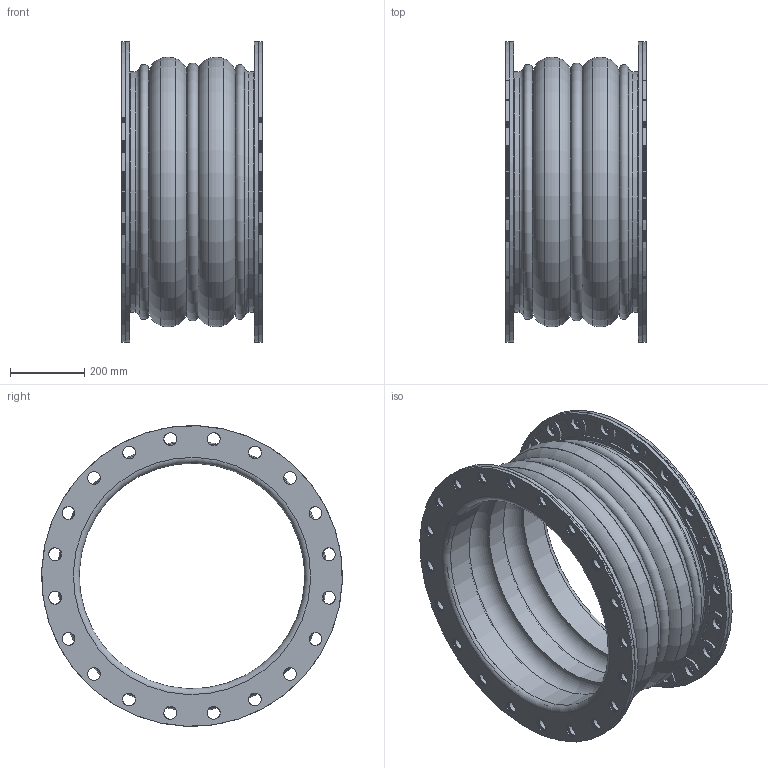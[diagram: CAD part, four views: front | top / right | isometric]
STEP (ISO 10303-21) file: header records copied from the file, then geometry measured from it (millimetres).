
FILE_DESCRIPTION((''),'2;1');
FILE_NAME('C:\2011_Work\Designs\Mercer\Stock Joints\450 Style\452\STEP\Style452 24x15.stp','2013-07-26T17:30:36',('mquog'),(''),'Autodesk Inventor 2011','Autodesk Inventor 2011','');
FILE_SCHEMA(('AUTOMOTIVE_DESIGN { 1 0 10303 214 1 1 1 1 }'));
Length unit declared in the file: inch
Products named in the file (4): Style452 24x15; 24DI450BUR150; 24_MBR; 452 24x15
Assembly tree (4 placements, depth 2):
  Style452 24x15
    24DI450BUR150  x2
    24_MBR
    452 24x15
Bounding box: 381 x 812.72 x 812.72 mm (x, y, z)
Volume: 27904581.3 mm3; surface area: 20312457.1 mm2
Topology: 36 solids, 36 shells, 1033 faces, 2682 edges, 1761 vertices
Faces by surface type: cylinder 738, plane 188, torus 103, cone 4
Full cylindrical faces by diameter (mm): 34.925 x280, 609.6 x3, 615.95 x6, 622.3 x12, 626.161 x6, 630.022 x6, 633.197 x3, 641.35 x6, 806.45 x12, 812.8 x2, 812.843 x2
Entity records: 22269 total; most frequent: DIRECTION 4112, CARTESIAN_POINT 3442, ORIENTED_EDGE 2928, AXIS2_PLACEMENT_3D 1895, EDGE_LOOP 1765, EDGE_CURVE 1464, VERTEX_POINT 1223, CIRCLE 1144
